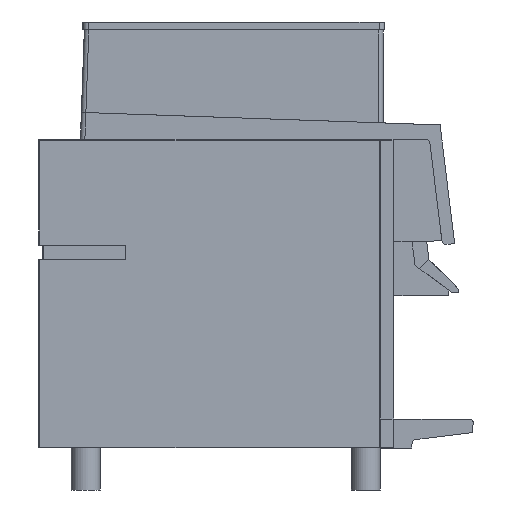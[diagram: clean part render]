
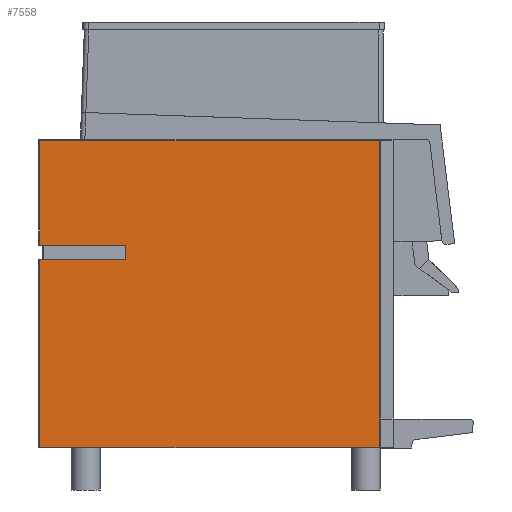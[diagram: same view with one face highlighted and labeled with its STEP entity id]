
A CAD part, left-side view. The second image highlights one B-rep face of the part: STEP entity #7558.
In plain terms, the highlighted planar face has unit normal (-1, 0, 0).
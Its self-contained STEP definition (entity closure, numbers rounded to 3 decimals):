
#387=LINE('',#10106,#1022);
#605=LINE('',#10670,#1240);
#606=LINE('',#10672,#1241);
#607=LINE('',#10674,#1242);
#608=LINE('',#10676,#1243);
#609=LINE('',#10678,#1244);
#610=LINE('',#10680,#1245);
#611=LINE('',#10682,#1246);
#612=LINE('',#10684,#1247);
#613=LINE('',#10686,#1248);
#1022=VECTOR('',#8449,1000.);
#1240=VECTOR('',#8919,1000.);
#1241=VECTOR('',#8920,1000.);
#1242=VECTOR('',#8921,1000.);
#1243=VECTOR('',#8922,1000.);
#1244=VECTOR('',#8923,1000.);
#1245=VECTOR('',#8924,1000.);
#1246=VECTOR('',#8925,1000.);
#1247=VECTOR('',#8926,1000.);
#1248=VECTOR('',#8927,1000.);
#2049=ORIENTED_EDGE('',*,*,#3284,.F.);
#2050=ORIENTED_EDGE('',*,*,#3573,.T.);
#2051=ORIENTED_EDGE('',*,*,#3574,.T.);
#2052=ORIENTED_EDGE('',*,*,#3575,.T.);
#2053=ORIENTED_EDGE('',*,*,#3576,.F.);
#2054=ORIENTED_EDGE('',*,*,#3577,.F.);
#2055=ORIENTED_EDGE('',*,*,#3578,.F.);
#2056=ORIENTED_EDGE('',*,*,#3579,.T.);
#2057=ORIENTED_EDGE('',*,*,#3580,.T.);
#2058=ORIENTED_EDGE('',*,*,#3581,.T.);
#3284=EDGE_CURVE('',#4075,#4076,#387,.T.);
#3573=EDGE_CURVE('',#4075,#4296,#605,.T.);
#3574=EDGE_CURVE('',#4296,#4297,#606,.F.);
#3575=EDGE_CURVE('',#4297,#4298,#607,.F.);
#3576=EDGE_CURVE('',#4299,#4298,#608,.T.);
#3577=EDGE_CURVE('',#4300,#4299,#609,.T.);
#3578=EDGE_CURVE('',#4301,#4300,#610,.T.);
#3579=EDGE_CURVE('',#4301,#4302,#611,.T.);
#3580=EDGE_CURVE('',#4302,#4303,#612,.T.);
#3581=EDGE_CURVE('',#4303,#4076,#613,.F.);
#4075=VERTEX_POINT('',#10105);
#4076=VERTEX_POINT('',#10107);
#4296=VERTEX_POINT('',#10671);
#4297=VERTEX_POINT('',#10673);
#4298=VERTEX_POINT('',#10675);
#4299=VERTEX_POINT('',#10677);
#4300=VERTEX_POINT('',#10679);
#4301=VERTEX_POINT('',#10681);
#4302=VERTEX_POINT('',#10683);
#4303=VERTEX_POINT('',#10685);
#4587=EDGE_LOOP('',(#2049,#2050,#2051,#2052,#2053,#2054,#2055,#2056,#2057,
#2058));
#4912=FACE_BOUND('',#4587,.T.);
#5214=PLANE('',#7956);
#7558=ADVANCED_FACE('',(#4912),#5214,.F.);
#7956=AXIS2_PLACEMENT_3D('',#10669,#8917,#8918);
#8449=DIRECTION('',(0.,1.,0.));
#8917=DIRECTION('',(1.,0.,0.));
#8918=DIRECTION('',(0.,1.,0.));
#8919=DIRECTION('',(0.,0.,1.));
#8920=DIRECTION('',(0.,-1.,0.));
#8921=DIRECTION('',(0.,0.,1.));
#8922=DIRECTION('',(0.,1.,0.));
#8923=DIRECTION('',(0.,1.,0.));
#8924=DIRECTION('',(0.,0.,1.));
#8925=DIRECTION('',(0.,1.,0.));
#8926=DIRECTION('',(0.,1.,0.));
#8927=DIRECTION('',(0.,0.,1.));
#10105=CARTESIAN_POINT('',(-284.,-470.,0.));
#10106=CARTESIAN_POINT('',(-284.,-490.,0.));
#10107=CARTESIAN_POINT('',(-284.,-1.2,0.));
#10669=CARTESIAN_POINT('',(-284.,0.,0.));
#10670=CARTESIAN_POINT('',(-284.,-470.,420.5));
#10671=CARTESIAN_POINT('',(-284.,-470.,424.8));
#10672=CARTESIAN_POINT('',(-284.,0.,424.8));
#10673=CARTESIAN_POINT('',(-284.,-1.2,424.8));
#10674=CARTESIAN_POINT('',(-284.,-1.2,0.));
#10675=CARTESIAN_POINT('',(-284.,-1.2,280.));
#10676=CARTESIAN_POINT('',(-284.,-5.,280.));
#10677=CARTESIAN_POINT('',(-284.,-5.133,280.));
#10678=CARTESIAN_POINT('',(-284.,-120.,280.));
#10679=CARTESIAN_POINT('',(-284.,-120.,280.));
#10680=CARTESIAN_POINT('',(-284.,-120.,260.));
#10681=CARTESIAN_POINT('',(-284.,-120.,260.));
#10682=CARTESIAN_POINT('',(-284.,-120.,260.));
#10683=CARTESIAN_POINT('',(-284.,-5.133,260.));
#10684=CARTESIAN_POINT('',(-284.,-5.,260.));
#10685=CARTESIAN_POINT('',(-284.,-1.2,260.));
#10686=CARTESIAN_POINT('',(-284.,-1.2,0.));
